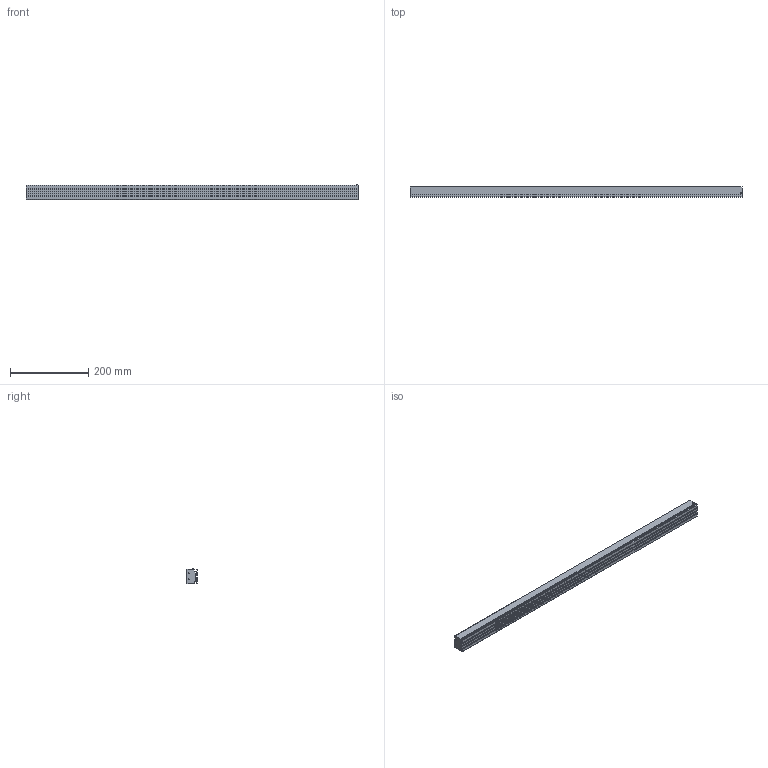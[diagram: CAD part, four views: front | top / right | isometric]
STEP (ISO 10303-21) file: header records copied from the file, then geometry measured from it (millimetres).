
FILE_DESCRIPTION (( 'STEP AP203' ), '1' );
FILE_NAME ('LRD-B6-850.STEP', '2022-08-25T06:10:14', ( 'TNT' ), ( '' ), 'SwSTEP 2.0', 'SolidWorks 2018', '' );
FILE_SCHEMA (( 'CONFIG_CONTROL_DESIGN' ));
Length unit declared in the file: millimetre
Products named in the file (1): LRD-B6-850
Bounding box: 850 x 27.7 x 39.1 mm (x, y, z)
Volume: 722111.5 mm3; surface area: 184583.4 mm2
Topology: 1 solids, 1 shells, 74 faces, 202 edges, 128 vertices
Faces by surface type: plane 56, cylinder 10, cone 8
Entity records: 2323 total; most frequent: CARTESIAN_POINT 397, ORIENTED_EDGE 388, DIRECTION 364, EDGE_CURVE 194, LINE 174, VECTOR 174, VERTEX_POINT 128, AXIS2_PLACEMENT_3D 95
